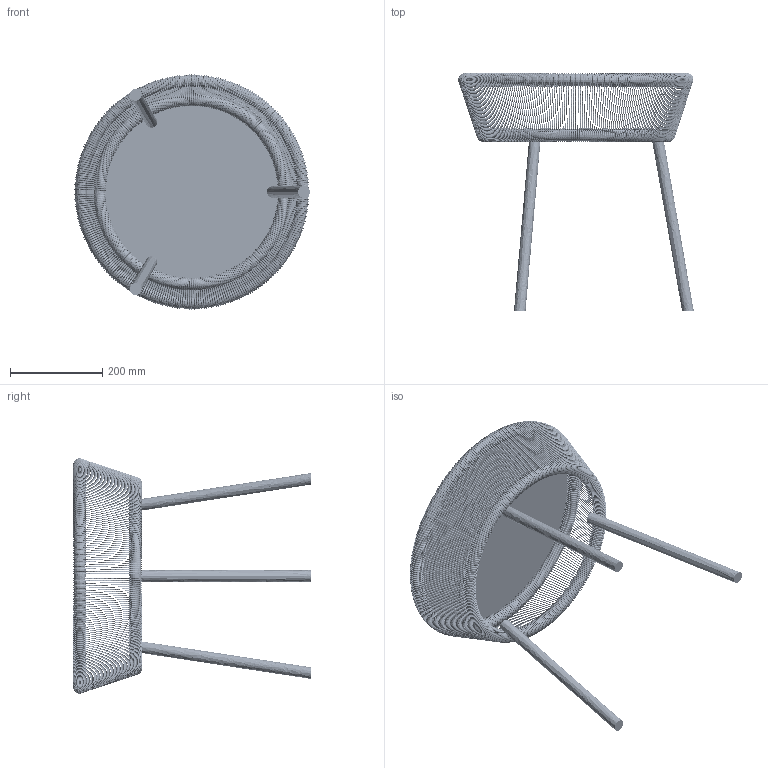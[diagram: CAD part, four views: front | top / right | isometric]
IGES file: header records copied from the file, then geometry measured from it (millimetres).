
Global section: file name: abb78819-ceb0-4d17-8a18-f7faa0d8109a; native system: unknown; preprocessor: unknown; author: unknown; organization: unknown; date: 20180524.145933; units: millimetre
Bounding box: 509.79 x 514.5 x 509 mm (x, y, z)
Volume: 3052239.4 mm3; surface area: 1187981.1 mm2
Topology: 306 solids, 306 shells, 1215 faces, 4820 edges, 3313 vertices
Faces by surface type: bspline 1215
